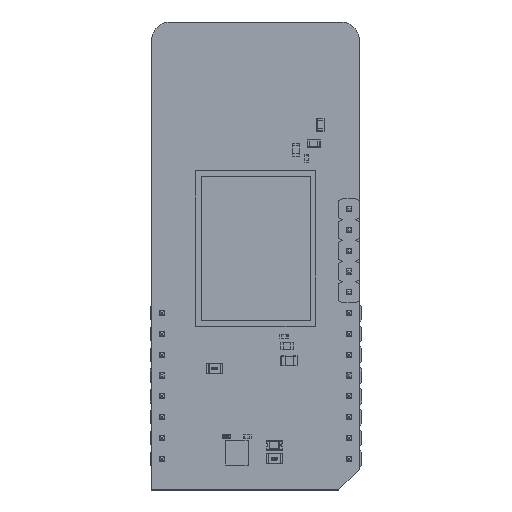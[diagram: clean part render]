
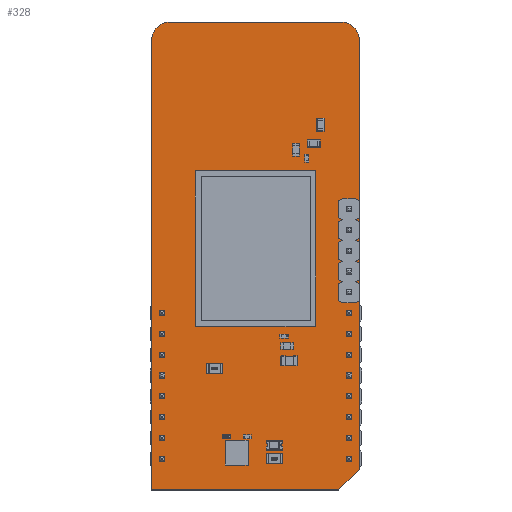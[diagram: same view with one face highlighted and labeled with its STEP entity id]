
A CAD part, top view. The second image highlights one B-rep face of the part: STEP entity #328.
In plain terms, the highlighted planar face has unit normal (0, 0, 1).
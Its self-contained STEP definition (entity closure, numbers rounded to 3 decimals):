
#99 = VERTEX_POINT('',#100);
#100 = CARTESIAN_POINT('',(-1.27,-3.81,0.));
#106 = EDGE_CURVE('',#99,#107,#109,.T.);
#107 = VERTEX_POINT('',#108);
#108 = CARTESIAN_POINT('',(-1.27,51.054,0.));
#109 = LINE('',#110,#111);
#110 = CARTESIAN_POINT('',(-1.27,-3.81,0.));
#111 = VECTOR('',#112,1.);
#112 = DIRECTION('',(0.,1.,0.));
#137 = EDGE_CURVE('',#107,#138,#140,.T.);
#138 = VERTEX_POINT('',#139);
#139 = CARTESIAN_POINT('',(1.016,53.34,0.));
#140 = CIRCLE('',#141,2.288);
#141 = AXIS2_PLACEMENT_3D('',#142,#143,#144);
#142 = CARTESIAN_POINT('',(1.018,51.052,0.));
#143 = DIRECTION('',(0.,0.,-1.));
#144 = DIRECTION('',(-1.,0.001,0.));
#170 = EDGE_CURVE('',#138,#171,#173,.T.);
#171 = VERTEX_POINT('',#172);
#172 = CARTESIAN_POINT('',(21.844,53.34,0.));
#173 = LINE('',#174,#175);
#174 = CARTESIAN_POINT('',(1.016,53.34,0.));
#175 = VECTOR('',#176,1.);
#176 = DIRECTION('',(1.,0.,0.));
#201 = EDGE_CURVE('',#171,#202,#204,.T.);
#202 = VERTEX_POINT('',#203);
#203 = CARTESIAN_POINT('',(24.13,51.054,0.));
#204 = CIRCLE('',#205,2.288);
#205 = AXIS2_PLACEMENT_3D('',#206,#207,#208);
#206 = CARTESIAN_POINT('',(21.842,51.052,0.));
#207 = DIRECTION('',(0.,0.,-1.));
#208 = DIRECTION('',(0.001,1.,0.));
#234 = EDGE_CURVE('',#202,#235,#237,.T.);
#235 = VERTEX_POINT('',#236);
#236 = CARTESIAN_POINT('',(24.13,-1.27,0.));
#237 = LINE('',#238,#239);
#238 = CARTESIAN_POINT('',(24.13,51.054,0.));
#239 = VECTOR('',#240,1.);
#240 = DIRECTION('',(0.,-1.,0.));
#265 = EDGE_CURVE('',#235,#266,#268,.T.);
#266 = VERTEX_POINT('',#267);
#267 = CARTESIAN_POINT('',(21.59,-3.81,0.));
#268 = LINE('',#269,#270);
#269 = CARTESIAN_POINT('',(24.13,-1.27,0.));
#270 = VECTOR('',#271,1.);
#271 = DIRECTION('',(-0.707,-0.707,0.));
#296 = EDGE_CURVE('',#266,#99,#297,.T.);
#297 = LINE('',#298,#299);
#298 = CARTESIAN_POINT('',(21.59,-3.81,0.));
#299 = VECTOR('',#300,1.);
#300 = DIRECTION('',(-1.,0.,0.));
#328 = ADVANCED_FACE('',(#329),#338,.T.);
#329 = FACE_BOUND('',#330,.F.);
#330 = EDGE_LOOP('',(#331,#332,#333,#334,#335,#336,#337));
#331 = ORIENTED_EDGE('',*,*,#106,.T.);
#332 = ORIENTED_EDGE('',*,*,#137,.T.);
#333 = ORIENTED_EDGE('',*,*,#170,.T.);
#334 = ORIENTED_EDGE('',*,*,#201,.T.);
#335 = ORIENTED_EDGE('',*,*,#234,.T.);
#336 = ORIENTED_EDGE('',*,*,#265,.T.);
#337 = ORIENTED_EDGE('',*,*,#296,.T.);
#338 = PLANE('',#339);
#339 = AXIS2_PLACEMENT_3D('',#340,#341,#342);
#340 = CARTESIAN_POINT('',(-1.27,-3.81,0.));
#341 = DIRECTION('',(0.,0.,1.));
#342 = DIRECTION('',(1.,0.,0.));
